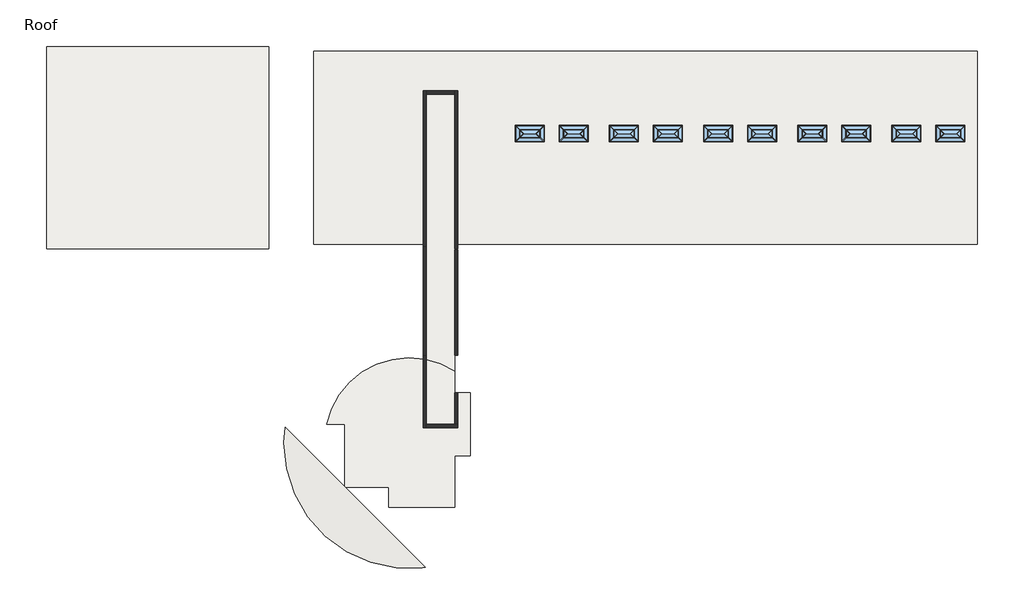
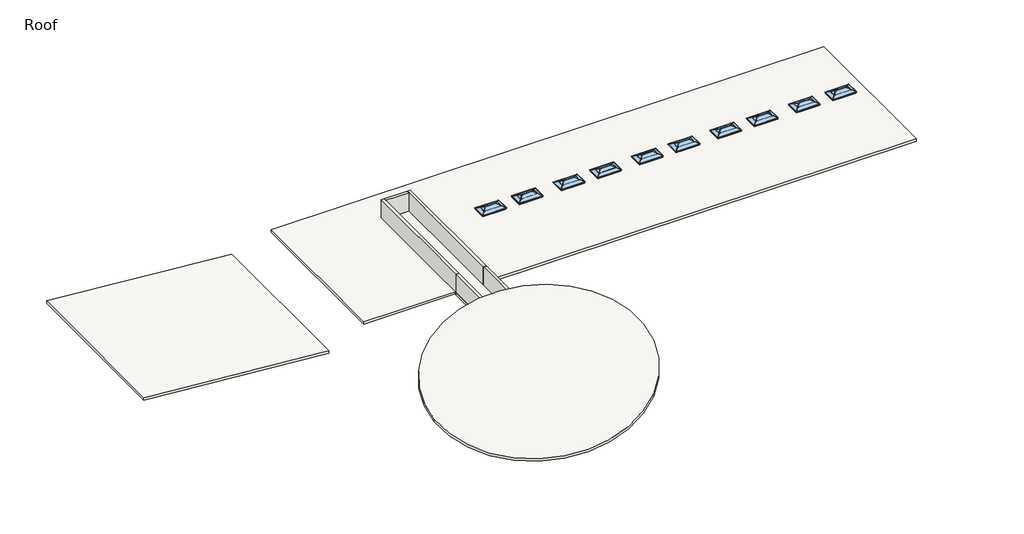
# One storey: 10 windows, 8 walls, 4 roofs.
"""IFC4 building model written with IfcOpenShell, lengths in millimetres."""

from ifc_helpers import new_model, si_unit, point, frame, frame_2d, origin, place, context, project, spatial, polyline, circle_curve, ellipse_curve, trimmed, segment, composite_curve, outline, extrude, faceted_brep, transform, mapped, element, save
from ifc_brep_helpers import plane_surface, cylinder_surface, revolved_surface, advanced_brep
from components import window_740b1336

model = new_model("IFC4")

# Units and contexts
model_context = context("Model", 3, world=origin())
ifc_project = project(units=[si_unit("LENGTHUNIT", "METRE", prefix="MILLI")], contexts=[model_context])

# Site, building, storey
site = spatial("IfcSite", under=ifc_project)
building = spatial("IfcBuilding", under=site)
storey = spatial("IfcBuildingStorey", under=building, Name="Roof", Elevation=19659.6)

# Roofs
placement = place(None, origin())
element("IfcRoof", 1, ObjectType="Generic - 12\"", at=placement, inside=storey, context=model_context, shape_type="SweptSolid", body=[
    extrude(outline(composite_curve([segment(polyline([(12247.2526119, 24214.936889), (12247.2526119, 18086.5267299), (10723.2526119, 18086.5267299), (10723.2526119, 13096.086889), (4328.8026119, 13096.086889), (4328.8026119, 15038.5267299), (61.6026119, 15038.5267299), (61.6026119, 21134.5267299), (-1699.2859192, 21134.5267299)]), True, "CONTINUOUS"), segment(trimmed(circle_curve(frame_2d((6313.3648235, 19386.8229562)), 8201.0389834), [point((-1699.2859192, 21134.5267299))], [point((10723.2526119, 26301.2954668))], False, "CARTESIAN"), True, "CONTINUOUS"), segment(polyline([(10723.2526119, 26301.2954668), (10723.2526119, 24214.936889), (12247.2526119, 24214.936889)]), True, "CONTINUOUS")], self_intersect=False)), frame((0.0, 0.0, 19659.6), z_axis=(0.0, 0.0, 1.0), x_axis=(1.0, 0.0, 0.0)), (0.0, 0.0, 1.0), 304.8),
])
element("IfcRoof", 2, ObjectType="Generic - 12\"", at=placement, inside=storey, context=model_context, shape_type="SweptSolid", body=[
    extrude(outline(composite_curve([segment(polyline([(-2965.7977165, 38618.324389), (-2965.7977165, 57366.699389), (61502.9567024, 57366.699389), (61502.9567024, 38618.324389), (10723.2526119, 38618.324389), (10723.2526119, 26301.2954668)]), True, "CONTINUOUS"), segment(trimmed(circle_curve(frame_2d((6313.3648235, 19386.8229562)), 8201.0389834), [point((10723.2526119, 26301.2954668))], [point((7675.2526119, 27473.9919329))], True, "CARTESIAN"), True, "CONTINUOUS"), segment(polyline([(7675.2526119, 27473.9919329), (7675.2526119, 38618.324389), (-2965.7977165, 38618.324389)]), True, "CONTINUOUS")], self_intersect=False), holes=[polyline([(19337.3692024, 50065.786889), (16721.1692024, 50065.786889), (16721.1692024, 48668.786889), (19337.3692024, 48668.786889), (19337.3692024, 50065.786889)]), polyline([(23604.5692024, 50065.786889), (20988.3692024, 50065.786889), (20988.3692024, 48668.786889), (23604.5692024, 48668.786889), (23604.5692024, 50065.786889)]), polyline([(28481.3692024, 50065.786889), (25865.1692024, 50065.786889), (25865.1692024, 48668.786889), (28481.3692024, 48668.786889), (28481.3692024, 50065.786889)]), polyline([(32748.5692024, 50065.786889), (30132.3692024, 50065.786889), (30132.3692024, 48668.786889), (32748.5692024, 48668.786889), (32748.5692024, 50065.786889)]), polyline([(37625.3692024, 50065.786889), (35009.1692024, 50065.786889), (35009.1692024, 48668.786889), (37625.3692024, 48668.786889), (37625.3692024, 50065.786889)]), polyline([(41892.5692024, 50065.786889), (39276.3692024, 50065.786889), (39276.3692024, 48668.786889), (41892.5692024, 48668.786889), (41892.5692024, 50065.786889)]), polyline([(46769.3692024, 50065.786889), (44153.1692024, 50065.786889), (44153.1692024, 48668.786889), (46769.3692024, 48668.786889), (46769.3692024, 50065.786889)]), polyline([(51036.5692024, 50065.786889), (48420.3692024, 50065.786889), (48420.3692024, 48668.786889), (51036.5692024, 48668.786889), (51036.5692024, 50065.786889)]), polyline([(55913.3692024, 50065.786889), (53297.1692024, 50065.786889), (53297.1692024, 48668.786889), (55913.3692024, 48668.786889), (55913.3692024, 50065.786889)]), polyline([(60180.5692024, 50065.786889), (57564.3692024, 50065.786889), (57564.3692024, 48668.786889), (60180.5692024, 48668.786889), (60180.5692024, 50065.786889)])]), frame((0.0, 0.0, 19659.6), z_axis=(0.0, 0.0, 1.0), x_axis=(1.0, 0.0, 0.0)), (0.0, 0.0, 1.0), 304.8),
])
element("IfcRoof", 3, ObjectType="Generic - 12\"", at=placement, inside=storey, context=model_context, shape_type="AdvancedBrep", body=[
    advanced_brep(
    [(-5859.4307976, 19341.311889, 20329.1538982), (18524.5692024, 19341.311889, 23562.0461018), (18524.5692024, 19341.311889, 23872.1576341), (-5859.4307976, 19341.311889, 20639.2654306)],
    [
        (0, 1, ellipse_curve(frame((6332.5692024, 19341.311889, 21945.6), z_axis=(0.13031167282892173, 0.13031167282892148, -0.9828721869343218), x_axis=(0.6949955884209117, 0.6949955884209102, 0.18428853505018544)), 12404.4612942, 12192.0)),
        (1, 0, ellipse_curve(frame((6332.5692024, 19341.311889, 21945.6), z_axis=(0.13031167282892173, 0.13031167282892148, -0.9828721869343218), x_axis=(0.6949955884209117, 0.6949955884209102, 0.18428853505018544)), 12404.4612942, 12192.0)),
        (2, 3, ellipse_curve(frame((6332.5692024, 19341.311889, 22255.7115324), z_axis=(-0.13031167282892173, -0.13031167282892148, 0.9828721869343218), x_axis=(0.6949955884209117, 0.6949955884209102, 0.18428853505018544)), 12404.4612942, 12192.0)),
        (3, 2, ellipse_curve(frame((6332.5692024, 19341.311889, 22255.7115324), z_axis=(-0.13031167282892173, -0.13031167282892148, 0.9828721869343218), x_axis=(0.6949955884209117, 0.6949955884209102, 0.18428853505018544)), 12404.4612942, 12192.0)),
        (2, 1),
        (0, 3),
    ],
    [
        plane_surface(frame((18524.5692024, 19341.311889, 23562.0461018), z_axis=(0.1303116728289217, 0.13031167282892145, -0.9828721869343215), x_axis=(-0.7071067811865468, 0.7071067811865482, 0.0))),
        plane_surface(frame((18524.5692024, 19341.311889, 23872.1576341), z_axis=(-0.1303116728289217, -0.13031167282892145, 0.9828721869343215), x_axis=(-0.7071067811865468, 0.7071067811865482, 0.0))),
        cylinder_surface(frame((6332.5692024, 19341.311889, 19659.6), z_axis=(0.0, 0.0, 1.0), x_axis=(1.0, 0.0, 0.0)), 12192.0),
    ],
    [
        (0, [[1, 2]]),
        (1, [[3, 4]]),
        (2, [[-3, 5, -1, 6]]),
        (2, [[-4, -6, -2, -5]]),
    ],
),
])
element("IfcRoof", 4, ObjectType="Generic - 12\"", at=placement, inside=storey, context=model_context, shape_type="SweptSolid", body=[
    extrude(outline(polyline([(18166.2364078, -7307.2307976), (19965.4565023, -28897.8719314), (19659.6, -28897.8719314), (17860.3799055, -7307.2307976), (18166.2364078, -7307.2307976)])), frame((0.0, 38164.299389, 0.0), z_axis=(0.0, 1.0, 0.0), x_axis=(0.0, 0.0, 1.0)), (0.0, 0.0, 1.0), 19656.425),
])

# Walls
element("IfcWall", 5, ObjectType="a_Mtl panel on Mtl stud", at=placement, inside=storey, context=model_context, shape_type="AdvancedBrep", body=[
    advanced_brep(
    [(7675.2526119, 27840.1541234, 19659.6), (7675.2526119, 20823.3767299, 19659.6), (7675.2526119, 20823.3767299, 22250.4), (7675.2526119, 27840.1541234, 22250.4), (7675.2526119, 27840.1541234, 20574.0), (7986.4026119, 27785.1234168, 19659.6), (7986.4026119, 27785.1234168, 22250.4), (7986.4026119, 21134.5267299, 22250.4), (7986.4026119, 20823.3767299, 22250.4), (7986.4026119, 20823.3767299, 19659.6), (7986.4026119, 21134.5267299, 19659.6)],
    [
        (0, 1),
        (1, 2),
        (2, 3),
        (3, 4),
        (4, 0),
        (5, 6),
        (6, 7),
        (7, 8),
        (8, 9),
        (9, 10),
        (10, 5),
        (0, 5, circle_curve(frame((6332.5692024, 19341.311889, 19659.6), z_axis=(0.0, 0.0, -1.0), x_axis=(1.0, 0.0, 0.0)), 8604.25)),
        (9, 1),
        (2, 8),
        (6, 3, circle_curve(frame((6332.5692024, 19341.311889, 22250.4), z_axis=(0.0, 0.0, 1.0), x_axis=(1.0, 0.0, 0.0)), 8604.25)),
    ],
    [
        plane_surface(frame((7675.2526119, 27588.3201792, 19659.6), z_axis=(-1.0, 0.0, 0.0), x_axis=(0.0, -1.0, 0.0))),
        plane_surface(frame((7986.4026119, 27588.3201792, 19659.6), z_axis=(1.0, 0.0, 0.0), x_axis=(0.0, 1.0, 0.0))),
        plane_surface(frame((7675.2526119, 27588.3201792, 19659.6), z_axis=(0.0, 0.0, -1.0), x_axis=(1.0, 0.0, 0.0))),
        plane_surface(frame((7675.2526119, 20978.9517299, 22250.4), z_axis=(0.0, 0.0, 1.0), x_axis=(1.0, 0.0, 0.0))),
        plane_surface(frame((7830.8276119, 20823.3767299, 19659.6), z_axis=(0.0, -1.0, 0.0), x_axis=(1.0, 0.0, 0.0))),
        cylinder_surface(frame((6332.5692024, 19341.311889, -304.8), z_axis=(0.0, 0.0, 1.0), x_axis=(1.0, 0.0, 0.0)), 8604.25),
    ],
    [
        (0, [[1, 2, 3, 4, 5]]),
        (1, [[6, 7, 8, 9, 10, 11]]),
        (2, [[-1, 12, -11, -10, 13]]),
        (3, [[-3, 14, -8, -7, 15]]),
        (4, [[-2, -13, -9, -14]]),
        (5, [[-5, -4, -15, -6, -12]]),
    ],
),
])
element("IfcWall", 6, ObjectType="a_Mtl panel on Mtl stud", at=placement, inside=storey, context=model_context, shape_type="Brep", body=[
    faceted_brep([(7986.4026119, 20823.3767299, 19659.6), (11034.4026119, 20823.3767299, 19659.6), (11034.4026119, 20823.3767299, 22250.4), (7986.4026119, 20823.3767299, 22250.4), (7986.4026119, 21134.5267299, 19659.6), (7986.4026119, 21134.5267299, 22250.4), (10723.2526119, 21134.5267299, 22250.4), (11034.4026119, 21134.5267299, 22250.4), (11034.4026119, 21134.5267299, 19659.6), (10723.2526119, 21134.5267299, 19659.6)], [[[0, 1, 2, 3]], [[4, 5, 6, 7, 8, 9]], [[1, 0, 4, 9, 8]], [[3, 2, 7, 6, 5]], [[2, 1, 8, 7]], [[0, 3, 5, 4]]]),
])
element("IfcWall", 7, ObjectType="a_Mtl panel on Mtl stud", at=placement, inside=storey, context=model_context, shape_type="SweptSolid", body=[
    extrude(outline(polyline([(11034.4026119, 24214.936889), (11034.4026119, 21134.5267299), (10723.2526119, 21134.5267299), (10723.2526119, 24214.936889), (11034.4026119, 24214.936889)])), frame((0.0, 0.0, 19659.6), z_axis=(0.0, 0.0, 1.0), x_axis=(1.0, 0.0, 0.0)), (0.0, 0.0, 1.0), 2590.8),
])
element("IfcWall", 8, ObjectType="a_Mtl panel on Mtl stud", at=placement, inside=storey, context=model_context, shape_type="Brep", body=[
    faceted_brep([(7986.4026119, 38391.311889, 19659.6), (7986.4026119, 38618.324389, 19659.6), (7986.4026119, 53209.036889, 19659.6), (7986.4026119, 53520.186889, 19659.6), (7986.4026119, 53520.186889, 22250.4), (7986.4026119, 53209.036889, 22250.4), (7986.4026119, 38391.311889, 22250.4), (7675.2526119, 53520.186889, 19659.6), (7675.2526119, 38618.324389, 19659.6), (7675.2526119, 38391.311889, 19659.6), (7675.2526119, 38391.311889, 20574.0), (7675.2526119, 38391.311889, 20714.6425781), (7675.2526119, 38391.311889, 22250.4), (7675.2526119, 53520.186889, 22250.4)], [[[0, 1, 2, 3, 4, 5, 6]], [[7, 8, 9, 10, 11, 12, 13]], [[3, 2, 1, 0, 9, 8, 7]], [[6, 5, 4, 13, 12]], [[0, 6, 12, 11, 10, 9]], [[4, 3, 7, 13]]]),
])
element("IfcWall", 9, ObjectType="a_Mtl panel on Mtl stud", at=placement, inside=storey, context=model_context, shape_type="Brep", body=[
    faceted_brep([(11034.4026119, 38164.299389, 19659.6), (11034.4026119, 53520.186889, 19659.6), (11034.4026119, 53520.186889, 22250.4), (11034.4026119, 38164.299389, 22250.4), (10723.2526119, 38164.299389, 19659.6), (10723.2526119, 38164.299389, 22250.4), (10723.2526119, 53209.036889, 22250.4), (10723.2526119, 53520.186889, 22250.4), (10723.2526119, 53520.186889, 19659.6), (10723.2526119, 53209.036889, 19659.6)], [[[0, 1, 2, 3]], [[4, 5, 6, 7, 8, 9]], [[1, 0, 4, 9, 8]], [[3, 2, 7, 6, 5]], [[2, 1, 8, 7]], [[0, 3, 5, 4]]]),
])
element("IfcWall", 10, ObjectType="a_Mtl panel on Mtl stud", at=placement, inside=storey, context=model_context, shape_type="SweptSolid", body=[
    extrude(outline(polyline([(7986.4026119, 53520.186889), (10723.2526119, 53520.186889), (10723.2526119, 53209.036889), (7986.4026119, 53209.036889), (7986.4026119, 53520.186889)])), frame((0.0, 0.0, 19659.6), z_axis=(0.0, 0.0, 1.0), x_axis=(1.0, 0.0, 0.0)), (0.0, 0.0, 1.0), 2590.8),
])
element("IfcWall", 11, ObjectType="a_Mtl panel on Mtl stud", at=placement, inside=storey, context=model_context, shape_type="AdvancedBrep", body=[
    advanced_brep(
    [(7986.4026119, 27785.1234168, 19659.6), (7986.4026119, 27918.5201792, 19659.6), (7986.4026119, 38086.511889, 19659.6), (7986.4026119, 38391.311889, 19659.6), (7986.4026119, 38391.311889, 22250.4), (7986.4026119, 27785.1234168, 22250.4), (7675.2526119, 38391.311889, 19659.6), (7675.2526119, 38086.511889, 19659.6), (7675.2526119, 27918.5201792, 19659.6), (7675.2526119, 27840.1541234, 19659.6), (7675.2526119, 27840.1541234, 22250.4), (7675.2526119, 38391.311889, 22250.4), (7675.2526119, 38391.311889, 20714.6425781), (7675.2526119, 38391.311889, 20574.0)],
    [
        (0, 1),
        (1, 2),
        (2, 3),
        (3, 4),
        (4, 5),
        (5, 0),
        (6, 7),
        (7, 8),
        (8, 9),
        (9, 10),
        (10, 11),
        (11, 12),
        (12, 13),
        (13, 6),
        (0, 9, circle_curve(frame((6332.5692024, 19341.311889, 19659.6), z_axis=(0.0, 0.0, 1.0), x_axis=(1.0, 0.0, 0.0)), 8604.25)),
        (6, 3),
        (11, 4),
        (10, 5, circle_curve(frame((6332.5692024, 19341.311889, 22250.4), z_axis=(0.0, 0.0, -1.0), x_axis=(1.0, 0.0, 0.0)), 8604.25)),
    ],
    [
        plane_surface(frame((7986.4026119, 27588.3201792, 19659.6), z_axis=(1.0, 0.0, 0.0), x_axis=(0.0, 1.0, 0.0))),
        plane_surface(frame((7675.2526119, 27588.3201792, 19659.6), z_axis=(-1.0, 0.0, 0.0), x_axis=(0.0, -1.0, 0.0))),
        plane_surface(frame((7986.4026119, 27588.3201792, 19659.6), z_axis=(0.0, 0.0, -1.0), x_axis=(-1.0, 0.0, 0.0))),
        plane_surface(frame((7986.4026119, 38391.311889, 19659.6), z_axis=(0.0, 1.0, 0.0), x_axis=(-1.0, 0.0, 0.0))),
        plane_surface(frame((7986.4026119, 38391.311889, 22250.4), z_axis=(0.0, 0.0, 1.0), x_axis=(-1.0, 0.0, 0.0))),
        revolved_surface(polyline([(14936.8192024, 19341.311889, 22250.4), (14936.8192024, 19341.311889, 19659.6)]), (6332.5692024, 19341.311889, -304.8), (0.0, 0.0, 1.0)),
    ],
    [
        (0, [[1, 2, 3, 4, 5, 6]]),
        (1, [[7, 8, 9, 10, 11, 12, 13, 14]]),
        (2, [[-3, -2, -1, 15, -9, -8, -7, 16]]),
        (3, [[-4, -16, -14, -13, -12, 17]]),
        (4, [[-5, -17, -11, 18]]),
        (5, [[-6, -18, -10, -15]]),
    ],
),
])
element("IfcWall", 12, ObjectType="a_Mtl panel on Mtl stud", at=placement, inside=storey, context=model_context, shape_type="SweptSolid", body=[
    extrude(outline(polyline([(11034.4026119, 38086.511889), (11034.4026119, 27824.911889), (10723.2526119, 27824.911889), (10723.2526119, 38086.511889), (11034.4026119, 38086.511889)])), frame((0.0, 0.0, 19659.6), z_axis=(0.0, 0.0, 1.0), x_axis=(1.0, 0.0, 0.0)), (0.0, 0.0, 1.0), 2590.8),
])

# Windows
window_shape = window_740b1336(model_context)
element("IfcWindow", 13, ObjectType="Skylight-Pyramid : 60\" x 108\"", at=placement, inside=storey, context=model_context, shape_type="MappedRepresentation", body=[
    mapped(window_shape, transform((18029.2692024, 49367.286889, 16002.0), x_axis=(0.0, 1.0, 0.0), y_axis=(-1.0, 0.0, 0.0), z_axis=(0.0, 0.0, 1.0))),
])
element("IfcWindow", 14, ObjectType="Skylight-Pyramid : 60\" x 108\"", at=placement, inside=storey, context=model_context, shape_type="MappedRepresentation", body=[
    mapped(window_shape, transform((22296.4692024, 49367.286889, 16002.0), x_axis=(0.0, 1.0, 0.0), y_axis=(-1.0, 0.0, 0.0), z_axis=(0.0, 0.0, 1.0))),
])
element("IfcWindow", 15, ObjectType="Skylight-Pyramid : 60\" x 108\"", at=placement, inside=storey, context=model_context, shape_type="MappedRepresentation", body=[
    mapped(window_shape, transform((27173.2692024, 49367.286889, 16002.0), x_axis=(0.0, 1.0, 0.0), y_axis=(-1.0, 0.0, 0.0), z_axis=(0.0, 0.0, 1.0))),
])
element("IfcWindow", 16, ObjectType="Skylight-Pyramid : 60\" x 108\"", at=placement, inside=storey, context=model_context, shape_type="MappedRepresentation", body=[
    mapped(window_shape, transform((31440.4692024, 49367.286889, 16002.0), x_axis=(0.0, 1.0, 0.0), y_axis=(-1.0, 0.0, 0.0), z_axis=(0.0, 0.0, 1.0))),
])
element("IfcWindow", 17, ObjectType="Skylight-Pyramid : 60\" x 108\"", at=placement, inside=storey, context=model_context, shape_type="MappedRepresentation", body=[
    mapped(window_shape, transform((36317.2692024, 49367.286889, 16002.0), x_axis=(0.0, 1.0, 0.0), y_axis=(-1.0, 0.0, 0.0), z_axis=(0.0, 0.0, 1.0))),
])
element("IfcWindow", 18, ObjectType="Skylight-Pyramid : 60\" x 108\"", at=placement, inside=storey, context=model_context, shape_type="MappedRepresentation", body=[
    mapped(window_shape, transform((40584.4692024, 49367.286889, 16002.0), x_axis=(0.0, 1.0, 0.0), y_axis=(-1.0, 0.0, 0.0), z_axis=(0.0, 0.0, 1.0))),
])
element("IfcWindow", 19, ObjectType="Skylight-Pyramid : 60\" x 108\"", at=placement, inside=storey, context=model_context, shape_type="MappedRepresentation", body=[
    mapped(window_shape, transform((45461.2692024, 49367.286889, 16002.0), x_axis=(0.0, 1.0, 0.0), y_axis=(-1.0, 0.0, 0.0), z_axis=(0.0, 0.0, 1.0))),
])
element("IfcWindow", 20, ObjectType="Skylight-Pyramid : 60\" x 108\"", at=placement, inside=storey, context=model_context, shape_type="MappedRepresentation", body=[
    mapped(window_shape, transform((49728.4692024, 49367.286889, 16002.0), x_axis=(0.0, 1.0, 0.0), y_axis=(-1.0, 0.0, 0.0), z_axis=(0.0, 0.0, 1.0))),
])
element("IfcWindow", 21, ObjectType="Skylight-Pyramid : 60\" x 108\"", at=placement, inside=storey, context=model_context, shape_type="MappedRepresentation", body=[
    mapped(window_shape, transform((54605.2692024, 49367.286889, 16002.0), x_axis=(0.0, 1.0, 0.0), y_axis=(-1.0, 0.0, 0.0), z_axis=(0.0, 0.0, 1.0))),
])
element("IfcWindow", 22, ObjectType="Skylight-Pyramid : 60\" x 108\"", at=placement, inside=storey, context=model_context, shape_type="MappedRepresentation", body=[
    mapped(window_shape, transform((58872.4692024, 49367.286889, 16002.0), x_axis=(0.0, 1.0, 0.0), y_axis=(-1.0, 0.0, 0.0), z_axis=(0.0, 0.0, 1.0))),
])

save(model, "model.ifc")
